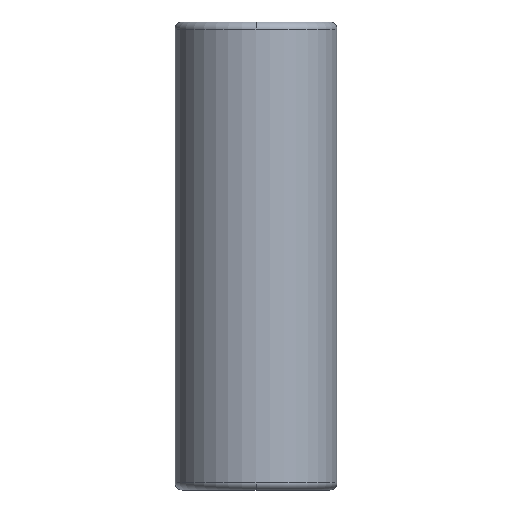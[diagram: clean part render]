
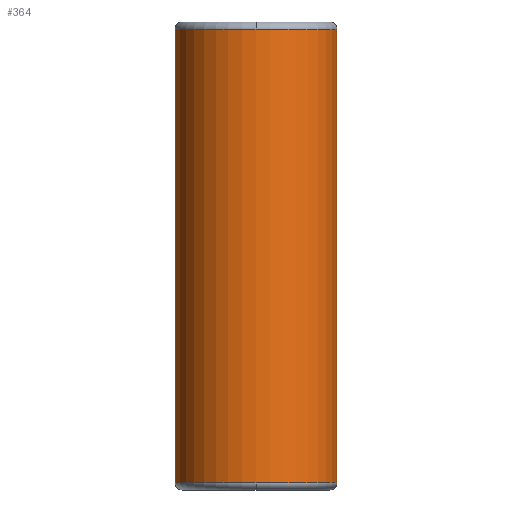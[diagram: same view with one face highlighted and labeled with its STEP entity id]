
A CAD part, front view. The second image highlights one B-rep face of the part: STEP entity #364.
In plain terms, the highlighted cylindrical face has radius 22.494 mm (diameter 44.988 mm), a partial arc.
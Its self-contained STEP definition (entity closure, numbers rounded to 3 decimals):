
#269=CARTESIAN_POINT('',(0.0,-22.494,128.0));
#270=VERTEX_POINT('',#269);
#296=CARTESIAN_POINT('',(-22.494,0.,128.0));
#297=VERTEX_POINT('',#296);
#305=CARTESIAN_POINT('',(0.0,0.,128.0));
#306=DIRECTION('',(0.0,0.0,1.0));
#307=DIRECTION('',(1.0,0.0,0.0));
#308=AXIS2_PLACEMENT_3D('',#305,#306,#307);
#309=CIRCLE('',#308,22.494);
#310=EDGE_CURVE('',#297,#270,#309,.T.);
#315=CARTESIAN_POINT('',(0.0,0.,65.0));
#316=DIRECTION('',(0.0,0.,1.0));
#317=DIRECTION('',(1.0,0.0,0.0));
#318=AXIS2_PLACEMENT_3D('',#315,#316,#317);
#319=CYLINDRICAL_SURFACE('',#318,22.494);
#320=CARTESIAN_POINT('',(22.494,0.,128.0));
#321=VERTEX_POINT('',#320);
#322=CARTESIAN_POINT('',(22.494,0.,2.));
#323=VERTEX_POINT('',#322);
#324=CARTESIAN_POINT('',(22.494,0.,128.0));
#325=DIRECTION('',(0.0,0.0,-1.0));
#326=VECTOR('',#325,126.0);
#327=LINE('',#324,#326);
#328=EDGE_CURVE('',#321,#323,#327,.T.);
#329=ORIENTED_EDGE('',*,*,#328,.F.);
#330=CARTESIAN_POINT('',(0.0,0.,128.0));
#331=DIRECTION('',(0.0,0.0,1.0));
#332=DIRECTION('',(1.0,0.0,0.0));
#333=AXIS2_PLACEMENT_3D('',#330,#331,#332);
#334=CIRCLE('',#333,22.494);
#335=EDGE_CURVE('',#270,#321,#334,.T.);
#336=ORIENTED_EDGE('',*,*,#335,.F.);
#337=ORIENTED_EDGE('',*,*,#310,.F.);
#338=CARTESIAN_POINT('',(-22.494,0.,2.));
#339=VERTEX_POINT('',#338);
#340=CARTESIAN_POINT('',(-22.494,0.,128.0));
#341=DIRECTION('',(0.0,0.0,-1.0));
#342=VECTOR('',#341,126.0);
#343=LINE('',#340,#342);
#344=EDGE_CURVE('',#297,#339,#343,.T.);
#345=ORIENTED_EDGE('',*,*,#344,.T.);
#346=CARTESIAN_POINT('',(0.0,-22.494,2.));
#347=VERTEX_POINT('',#346);
#348=CARTESIAN_POINT('',(0.0,0.,2.0));
#349=DIRECTION('',(0.0,0.0,1.0));
#350=DIRECTION('',(1.0,0.0,0.0));
#351=AXIS2_PLACEMENT_3D('',#348,#349,#350);
#352=CIRCLE('',#351,22.494);
#353=EDGE_CURVE('',#339,#347,#352,.T.);
#354=ORIENTED_EDGE('',*,*,#353,.T.);
#355=CARTESIAN_POINT('',(0.0,0.,2.0));
#356=DIRECTION('',(0.0,0.0,1.0));
#357=DIRECTION('',(1.0,0.0,0.0));
#358=AXIS2_PLACEMENT_3D('',#355,#356,#357);
#359=CIRCLE('',#358,22.494);
#360=EDGE_CURVE('',#347,#323,#359,.T.);
#361=ORIENTED_EDGE('',*,*,#360,.T.);
#362=EDGE_LOOP('',(#329,#336,#337,#345,#354,#361));
#363=FACE_OUTER_BOUND('',#362,.T.);
#364=ADVANCED_FACE('',(#363),#319,.T.);
